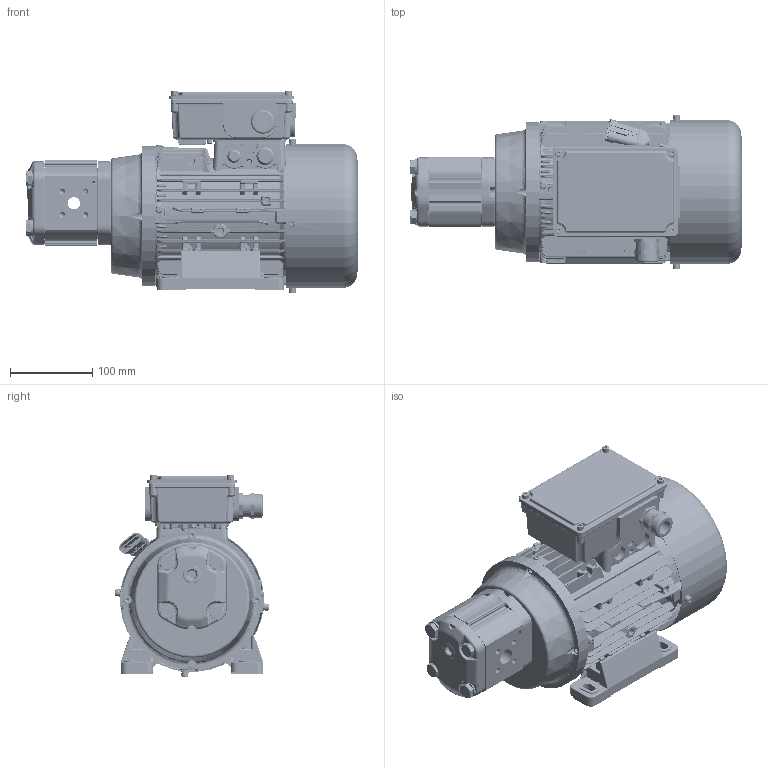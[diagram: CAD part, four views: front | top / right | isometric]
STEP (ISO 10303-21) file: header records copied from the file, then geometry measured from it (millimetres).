
FILE_DESCRIPTION(/* description */ (''),/* implementation_level */ '2;1');
FILE_NAME(/* name */ 'Z:\SITO WEB 2023\Elettropompe\Elettropompe AC\D.135 mm\AMP135.GR2.stp',/* time_stamp */ '2023-09-18T15:47:28+02:00',/* author */ ('cad3'),/* organization */ (''),/* preprocessor_version */ 'ST-DEVELOPER v18.1',/* originating_system */ 'Autodesk Inventor 2022',/* authorisation */ '');
FILE_SCHEMA (('AUTOMOTIVE_DESIGN { 1 0 10303 214 3 1 1 }'));
Products named in the file (1): AMP135.GR2
Bounding box: 404.2 x 187.65 x 246.03 mm (x, y, z)
Volume: 2195780.6 mm3; surface area: 901549.9 mm2
Topology: 7 solids, 55 shells, 14899 faces, 37435 edges, 22824 vertices
Faces by surface type: plane 6445, bspline 3282, cylinder 3245, torus 801, cone 785, sphere 341
Full cylindrical faces by diameter (mm): 2 x6, 3 x7, 3.2 x4, 4 x14, 4.134 x11, 4.2 x4, 4.917 x8, 5 x33, 5.2 x5, 5.3 x8, 5.5 x13, 6 x13, 6.3 x2, 6.5 x7, 6.6 x5, 6.63 x1, 6.8 x1, 7 x4, 7.8 x9, 8 x4, 8.376 x4, 8.4 x3, 8.5 x16, 8.6 x2, 8.75 x3, 9 x2, 10 x14, 10.5 x14, 11 x4, 14 x8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
Entity records: 663420 total; most frequent: CARTESIAN_POINT 303599, ORIENTED_EDGE 74328, DIRECTION 70760, EDGE_CURVE 37164, AXIS2_PLACEMENT_3D 26667, VERTEX_POINT 22842, LINE 17426, VECTOR 17426
